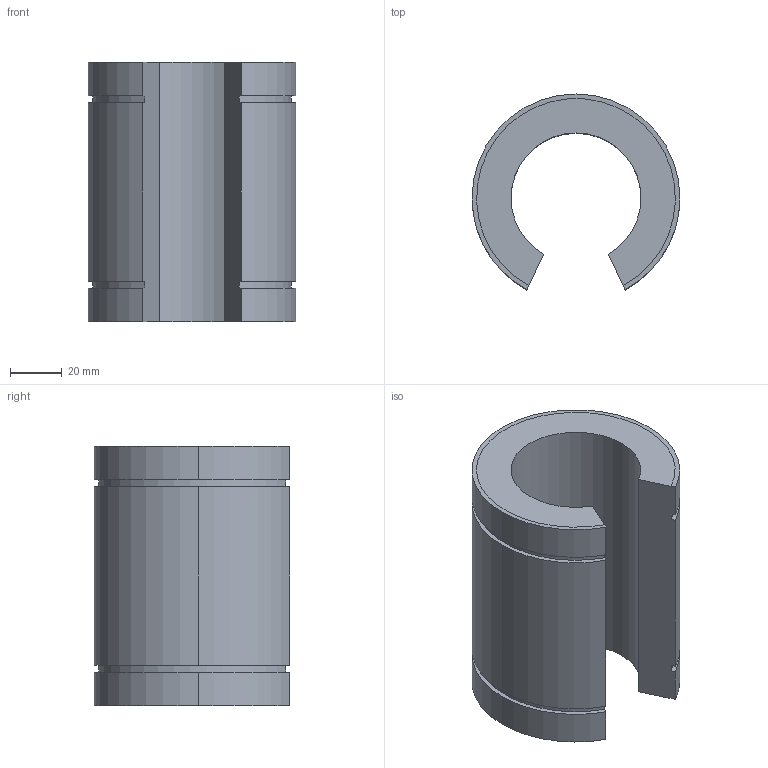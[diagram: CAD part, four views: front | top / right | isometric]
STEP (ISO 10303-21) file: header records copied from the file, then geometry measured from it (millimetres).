
FILE_DESCRIPTION((''),'2;1');
FILE_NAME('C:\Documents and Settings\ｿﾀﾀ蠑ｷ1\ｹﾙﾅﾁ ﾈｭｸ饅\ｺﾎﾇｰﾆﾄﾀﾏ\ﾁｦﾇｰ\LM__UUOP\LM50UUOP.stp','2005-06-14T16:18:53',('ｿﾀﾀ蠑ｷ1'),(''),'Autodesk Inventor 9','Autodesk Inventor 9','');
FILE_SCHEMA(('AUTOMOTIVE_DESIGN { 1 0 10303 214 1 1 1 1 }'));
Length unit declared in the file: millimetre
Products named in the file (1): LM__
Bounding box: 80 x 75.28 x 100 mm (x, y, z)
Volume: 255334.3 mm3; surface area: 43831.4 mm2
Topology: 1 solids, 1 shells, 26 faces, 72 edges, 48 vertices
Faces by surface type: cylinder 16, plane 10
Entity records: 873 total; most frequent: DIRECTION 160, CARTESIAN_POINT 147, ORIENTED_EDGE 144, EDGE_CURVE 72, AXIS2_PLACEMENT_3D 61, VERTEX_POINT 48, VECTOR 38, LINE 38
